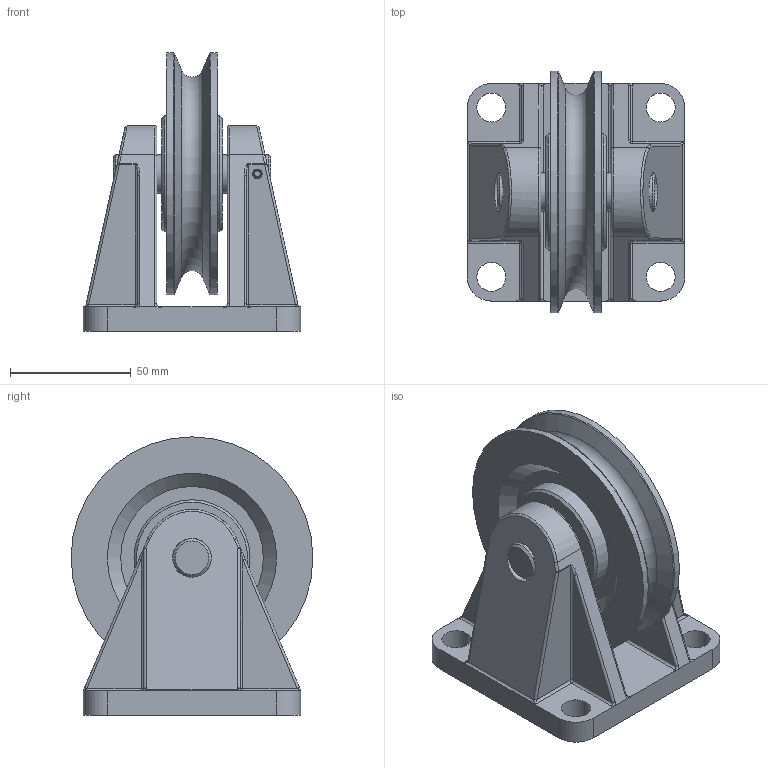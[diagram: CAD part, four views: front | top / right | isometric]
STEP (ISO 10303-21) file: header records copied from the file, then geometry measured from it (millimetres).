
FILE_DESCRIPTION(/* description */ ('Seilrollenbock ø100 Guß komplett'),/* implementation_level */ '2;1');
FILE_NAME(/* name */ 'Z:\Workspace\03 Seilrollen\1.403 Seilrollenbock Guß Gleitlager\1.403.03 Seilrollenbock ø100 Guß Gleitlager\1.403.03 Seilrollenbock ø100 Guß komplett.stp',/* time_stamp */ '2021-10-04T14:50:44+02:00',/* author */ ('cad-user'),/* organization */ (''),/* preprocessor_version */ 'ST-DEVELOPER v18',/* originating_system */ 'Autodesk Inventor 2020',/* authorisation */ '');
FILE_SCHEMA (('AUTOMOTIVE_DESIGN { 1 0 10303 214 3 1 1 }'));
Length unit declared in the file: millimetre
Products named in the file (6): 1.403.03 Seilrollenbock ø100 Guß komplett; 1.403.03.01 Seilrollenbock ø100 Gußteil; 1.403.03.02 Stange; IFI 512-S - 4; 1.401.03 Seilrolle ø100 Buchse ; Lagerbuchse 1625-DU
Assembly tree (5 placements, depth 2):
  1.403.03 Seilrollenbock ø100 Guß komplett
    1.403.03.01 Seilrollenbock ø100 Gußteil
    1.403.03.02 Stange
    IFI 512-S - 4
    1.401.03 Seilrolle ø100 Buchse 
    Lagerbuchse 1625-DU
Bounding box: 90 x 100 x 115 mm (x, y, z)
Volume: 349415.6 mm3; surface area: 78036.5 mm2
Topology: 5 solids, 5 shells, 148 faces, 365 edges, 225 vertices
Faces by surface type: cylinder 61, plane 38, bspline 22, cone 14, sphere 8, torus 5
Full cylindrical faces by diameter (mm): 4 x2, 12 x4, 16 x3, 18 x1, 48 x2, 100 x2
Entity records: 5495 total; most frequent: CARTESIAN_POINT 1698, DIRECTION 807, ORIENTED_EDGE 722, EDGE_CURVE 361, AXIS2_PLACEMENT_3D 333, VERTEX_POINT 225, EDGE_LOOP 170, CIRCLE 150
